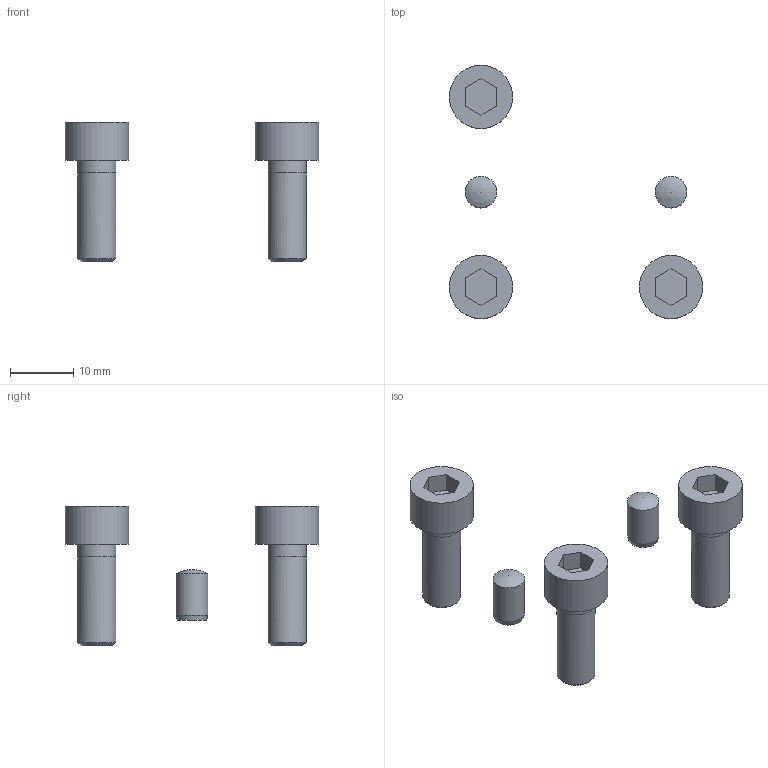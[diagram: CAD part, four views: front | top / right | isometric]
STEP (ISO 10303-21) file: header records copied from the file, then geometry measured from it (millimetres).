
FILE_DESCRIPTION( ( 'STEP AP214' ), '1' );
FILE_NAME( 'U:/Marketing/AvmDoc/LINMOT/CD_2010_06/3D STEP/Accessoires/8319106.step', '2010-06-10T08:41:59', ( ' ' ), ( ' ' ), 'XStep 1.0', ' ', ' ' );
FILE_SCHEMA( ( 'automotive_design' ) );
Length unit declared in the file: millimetre
Products named in the file (5): 1; 2; 3; 4; 5
Bounding box: 40 x 40 x 22 mm (x, y, z)
Volume: 2868.7 mm3; surface area: 2385.4 mm2
Topology: 5 solids, 5 shells, 50 faces, 101 edges, 65 vertices
Faces by surface type: plane 32, cylinder 11, cone 5, bspline 2
Full cylindrical faces by diameter (mm): 5 x2, 6 x6, 10 x3
Entity records: 1778 total; most frequent: CARTESIAN_POINT 348, DIRECTION 202, ORIENTED_EDGE 156, EDGE_CURVE 78, AXIS2_PLACEMENT_3D 74, EDGE_LOOP 72, VERTEX_POINT 62, FACE_OUTER_BOUND 61
